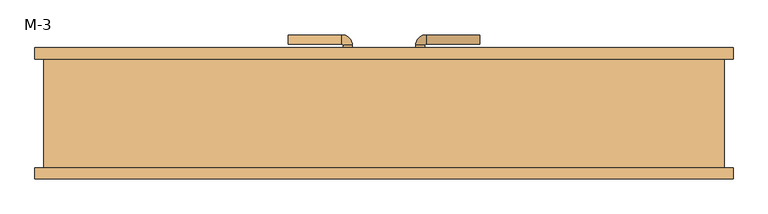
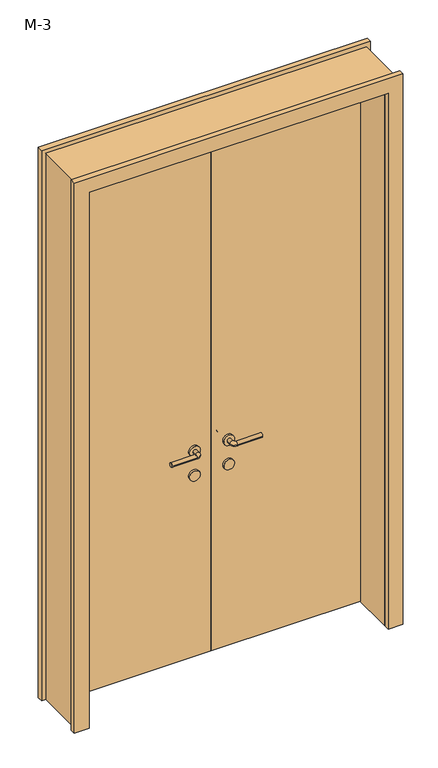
"""IFC4 building model written with IfcOpenShell, lengths in millimetres: door geometry, 双面嵌板木门 1 : M-3."""

import ifcopenshell
import ifcopenshell.guid

model = None  # the IFC model being written
_history = None  # IfcOwnerHistory: only IFC2X3 demands one
_inside = {}  # id of a spatial element -> (the spatial element, [elements in it])
_under = {}  # id of a project, library or spatial element -> (it, [spatial elements below it])
_declared = {}  # id of a project -> (the project, [libraries it declares])
_typed = {}  # id of a type object -> (the type object, [elements of that type])
_made_of = {}  # id of a material, layer set ... -> (it, [elements and type objects made of it])


def new_model(schema):
    """Start an empty IFC model of exactly this schema.

    Asked for "IFC4X3", IfcOpenShell would pick the latest addendum, in which some entities
    have other attributes; the version numbers below select the first issue.
    IFC2X3 requires an IfcOwnerHistory on every rooted entity: one is made here for all.
    """
    global model, _history
    if schema == "IFC4X3":
        model = ifcopenshell.file(schema_version=(4, 3, 0, 0))
    else:
        model = ifcopenshell.file(schema=schema)
    _inside.clear()
    _under.clear()
    _declared.clear()
    _typed.clear()
    _made_of.clear()
    _history = None
    if model.schema == "IFC2X3":
        org = make("IfcOrganization", Name="unknown")
        user = make(
            "IfcPersonAndOrganization",
            ThePerson=make("IfcPerson", FamilyName="unknown"),
            TheOrganization=org,
        )
        app = make(
            "IfcApplication",
            ApplicationDeveloper=org,
            Version="unknown",
            ApplicationFullName="unknown",
            ApplicationIdentifier="unknown",
        )
        _history = make(
            "IfcOwnerHistory",
            OwningUser=user,
            OwningApplication=app,
            ChangeAction="ADDED",
            CreationDate=0,
        )
    return model


def make(cls, **values):
    """One entity of the class cls with the attributes given. An attribute that is None is left unset."""
    return model.create_entity(
        cls, **{name: value for name, value in values.items() if value is not None}
    )


def rooted(cls, **values):
    """An entity with a GlobalId (a new one), such as an element, a storey or a relation."""
    return make(cls, GlobalId=ifcopenshell.guid.new(), OwnerHistory=_history, **values)


def si_unit(unit_type, name, prefix=None):
    """IfcSIUnit, for example si_unit("LENGTHUNIT", "METRE", prefix="MILLI")."""
    return make("IfcSIUnit", UnitType=unit_type, Prefix=prefix, Name=name)


def assignment(units):
    """IfcUnitAssignment: the units of a project."""
    return None if units is None else make("IfcUnitAssignment", Units=units)


def point(xyz):
    """IfcCartesianPoint."""
    return None if xyz is None else make("IfcCartesianPoint", Coordinates=xyz)


def direction(xyz):
    """IfcDirection."""
    return None if xyz is None else make("IfcDirection", DirectionRatios=xyz)


def frame(location, z_axis=None, x_axis=None):
    """IfcAxis2Placement3D, a coordinate frame: its origin and axes. An axis left out is left unset."""
    return make(
        "IfcAxis2Placement3D",
        Location=point(location),
        Axis=direction(z_axis),
        RefDirection=direction(x_axis),
    )


def frame_2d(location, x_axis=None):
    """IfcAxis2Placement2D, a coordinate frame in the plane: its origin and x axis."""
    return make(
        "IfcAxis2Placement2D", Location=point(location), RefDirection=direction(x_axis)
    )


def origin():
    """The frame at (0, 0, 0) with its axes left unset."""
    return frame((0.0, 0.0, 0.0))


def origin_with_axes():
    """The frame at (0, 0, 0) with the z axis (0, 0, 1) and the x axis (1, 0, 0) written out."""
    return frame((0.0, 0.0, 0.0), z_axis=(0.0, 0.0, 1.0), x_axis=(1.0, 0.0, 0.0))


def place(relative_to, where):
    """IfcLocalPlacement: puts the frame where relative to a parent placement (None: the world)."""
    return make(
        "IfcLocalPlacement", PlacementRelTo=relative_to, RelativePlacement=where
    )


def context(
    kind, dimensions, precision=None, world=None, true_north=None, identifier=None
):
    """IfcGeometricRepresentationContext, for example the 3D "Model" context."""
    return make(
        "IfcGeometricRepresentationContext",
        ContextIdentifier=identifier,
        ContextType=kind,
        CoordinateSpaceDimension=dimensions,
        Precision=precision,
        WorldCoordinateSystem=world,
        TrueNorth=true_north,
    )


def project(units=None, contexts=None):
    """IfcProject with its units and contexts."""
    return rooted(
        "IfcProject",
        Name="project",
        RepresentationContexts=contexts,
        UnitsInContext=assignment(units),
    )


def spatial(cls, under=None, at=None, **own):
    """A site, building, storey or space (cls), placed at a placement, below another one or the project."""
    s = rooted(cls, ObjectPlacement=at, **own)
    if under is not None:
        _under.setdefault(under.id(), (under, []))[1].append(s)
    return s


def polyline(points):
    """IfcPolyline through the points."""
    return make("IfcPolyline", Points=[point(p) for p in points])


def circle_curve(where, radius):
    """IfcCircle in the frame where."""
    return make("IfcCircle", Position=where, Radius=radius)


def ellipse_curve(where, semi_axis1, semi_axis2):
    """IfcEllipse in the frame where."""
    return make(
        "IfcEllipse", Position=where, SemiAxis1=semi_axis1, SemiAxis2=semi_axis2
    )


def trimmed(basis, trim1, trim2, sense, master):
    """IfcTrimmedCurve: the piece of a basis curve between two trims."""
    return make(
        "IfcTrimmedCurve",
        BasisCurve=basis,
        Trim1=trim1,
        Trim2=trim2,
        SenseAgreement=sense,
        MasterRepresentation=master,
    )


def segment(curve, same_sense, transition):
    """IfcCompositeCurveSegment."""
    return make(
        "IfcCompositeCurveSegment",
        Transition=transition,
        SameSense=same_sense,
        ParentCurve=curve,
    )


def composite_curve(segments, self_intersect=None):
    """IfcCompositeCurve: segments joined end to end."""
    return make("IfcCompositeCurve", Segments=segments, SelfIntersect=self_intersect)


def outline(outer, holes=None, kind="AREA"):
    """IfcArbitraryClosedProfileDef: a profile drawn as a closed curve; with holes, ...WithVoids."""
    if holes is None:
        return make("IfcArbitraryClosedProfileDef", ProfileType=kind, OuterCurve=outer)
    return make(
        "IfcArbitraryProfileDefWithVoids",
        ProfileType=kind,
        OuterCurve=outer,
        InnerCurves=holes,
    )


def extrude(swept, where, along, depth):
    """IfcExtrudedAreaSolid: the profile swept, set in the frame where, extruded along a direction by depth."""
    return make(
        "IfcExtrudedAreaSolid",
        SweptArea=swept,
        Position=where,
        ExtrudedDirection=direction(along),
        Depth=depth,
    )


def shape(context_of_items, identifier, shape_type, items):
    """IfcShapeRepresentation: the items that make up one representation, for example the "Body"."""
    return make(
        "IfcShapeRepresentation",
        ContextOfItems=context_of_items,
        RepresentationIdentifier=identifier,
        RepresentationType=shape_type,
        Items=items,
    )


def source(mapping_origin, context_of_items, identifier, shape_type, items):
    """IfcRepresentationMap: a shape defined once, which mapped items show again and again."""
    return make(
        "IfcRepresentationMap",
        MappingOrigin=mapping_origin,
        MappedRepresentation=shape(context_of_items, identifier, shape_type, items),
    )


def transform(
    local_origin,
    x_axis=None,
    y_axis=None,
    z_axis=None,
    scale=None,
    scale2=None,
    scale3=None,
    uniform=True,
):
    """IfcCartesianTransformationOperator3D, or its non-uniform kind. x_axis, y_axis, z_axis: its Axis1, 2, 3."""
    if uniform:
        return make(
            "IfcCartesianTransformationOperator3D",
            Axis1=direction(x_axis),
            Axis2=direction(y_axis),
            LocalOrigin=point(local_origin),
            Scale=scale,
            Axis3=direction(z_axis),
        )
    return make(
        "IfcCartesianTransformationOperator3DnonUniform",
        Axis1=direction(x_axis),
        Axis2=direction(y_axis),
        LocalOrigin=point(local_origin),
        Scale=scale,
        Axis3=direction(z_axis),
        Scale2=scale2,
        Scale3=scale3,
    )


def mapped(mapping_source, mapping_target):
    """IfcMappedItem: shows the shape of a source again, moved by a transform."""
    return make(
        "IfcMappedItem", MappingSource=mapping_source, MappingTarget=mapping_target
    )


def made_of(thing, what):
    """Note that an element or type object is made of a material, layer set ...; save() writes the relation."""
    if what is not None:
        _made_of.setdefault(what.id(), (what, []))[1].append(thing)
    return thing


def element(
    cls,
    number,
    at=None,
    inside=None,
    cuts=None,
    type_object=None,
    material=None,
    context=None,
    identifier="Body",
    shape_type=None,
    held_by="IfcProductDefinitionShape",
    body=None,
    shapes=None,
    **own,
):
    """One element of the class cls, such as IfcWall. Its Tag is "e" and its number.

    at: its placement. inside: the storey or other place that contains it. cuts: it is an
    opening in that element (IfcRelVoidsElement). A single representation is given by context,
    identifier, shape_type and body (its items); several are given by shapes. held_by: the class
    of the entity that holds the representations. save() writes the other relations.
    """
    e = rooted(cls, Tag="e%d" % number, ObjectPlacement=at, **own)
    if body is not None:
        shapes = [shape(context, identifier, shape_type, body)]
    if shapes is not None:
        e.Representation = make(held_by, Representations=shapes)
    if inside is not None:
        _inside.setdefault(inside.id(), (inside, []))[1].append(e)
    if cuts is not None:
        rooted(
            "IfcRelVoidsElement", RelatingBuildingElement=cuts, RelatedOpeningElement=e
        )
    if type_object is not None:
        _typed.setdefault(type_object.id(), (type_object, []))[1].append(e)
    return made_of(e, material)


def aggregate(whole, parts):
    """IfcRelAggregates: a whole, such as a stair, and the parts it consists of."""
    return rooted("IfcRelAggregates", RelatingObject=whole, RelatedObjects=parts)


def save(model, path):
    """Write the relations noted so far, then the file.

    IfcRelAggregates (storeys below a building ...), IfcRelContainedInSpatialStructure (elements
    in a storey), IfcRelDefinesByType, IfcRelAssociatesMaterial and IfcRelDeclares: one each for
    every whole, place, type object, material and project.
    """
    for whole, parts in _under.values():
        aggregate(whole, parts)
    for where, things in _inside.values():
        rooted(
            "IfcRelContainedInSpatialStructure",
            RelatedElements=things,
            RelatingStructure=where,
        )
    for kind, things in _typed.values():
        rooted("IfcRelDefinesByType", RelatedObjects=things, RelatingType=kind)
    for what, things in _made_of.values():
        rooted("IfcRelAssociatesMaterial", RelatedObjects=things, RelatingMaterial=what)
    for by, libraries in _declared.values():
        rooted("IfcRelDeclares", RelatingContext=by, RelatedDefinitions=libraries)
    model.write(path)


def plane_surface(at):
    """IfcPlane: the flat surface through the origin of the frame at, square to its z axis."""
    return make("IfcPlane", Position=at)


def cylinder_surface(at, radius):
    """IfcCylindricalSurface: all points at the distance radius from the z axis of the frame at."""
    return make("IfcCylindricalSurface", Position=at, Radius=radius)


def revolved_surface(curve, axis_point, axis_direction):
    """IfcSurfaceOfRevolution: the curve turned about the line through axis_point along axis_direction."""
    return make(
        "IfcSurfaceOfRevolution",
        SweptCurve=make("IfcArbitraryOpenProfileDef", ProfileType="CURVE", Curve=curve),
        AxisPosition=make("IfcAxis1Placement", Location=point(axis_point), Axis=direction(axis_direction)),
    )


def advanced_brep(points, edges, surfaces, faces):
    """IfcAdvancedBrep: a solid bounded by faces that lie on surfaces and meet in shared edges.

    An edge is (start, end): straight between two places in points (the first is 0);
    or (start, end, curve); or (start, end, curve, False) where it runs against its curve.
    A face is (place in surfaces, loops), or (place, loops, False) where it looks against
    its surface's normal. A loop lists edges by number (the first is 1), with a minus sign
    where the edge is run from its end to its start. The first loop is the outer one.
    """
    corners = [point(p) for p in points]
    vertices = [make("IfcVertexPoint", VertexGeometry=c) for c in corners]
    made = []
    for start, end, *more in edges:
        made.append(
            make(
                "IfcEdgeCurve",
                EdgeStart=vertices[start],
                EdgeEnd=vertices[end],
                EdgeGeometry=more[0] if more else make("IfcPolyline", Points=[corners[start], corners[end]]),
                SameSense=more[1] if len(more) > 1 else True,
            )
        )
    hull = []
    for where, loops, *sense in faces:
        bounds = []
        for j, loop in enumerate(loops):
            ring = [make("IfcOrientedEdge", EdgeElement=made[abs(k) - 1], Orientation=k > 0) for k in loop]
            bounds.append(
                make(
                    "IfcFaceOuterBound" if j == 0 else "IfcFaceBound",
                    Bound=make("IfcEdgeLoop", EdgeList=ring),
                    Orientation=True,
                )
            )
        hull.append(make("IfcAdvancedFace", Bounds=bounds, FaceSurface=surfaces[where], SameSense=sense[0] if sense else True))
    return make("IfcAdvancedBrep", Outer=make("IfcClosedShell", CfsFaces=hull))


def m_3_cd12d806(model_context):
    return source(origin(), model_context, "Body", "SolidModel", [
        extrude(outline(composite_curve([segment(trimmed(circle_curve(frame_2d((900.0, 80.0)), 25.0), [point((900.0, 105.0))], [point((900.0, 55.0))], False, "CARTESIAN"), True, "CONTINUOUS"), segment(trimmed(circle_curve(frame_2d((900.0, 80.0)), 25.0), [point((900.0, 55.0))], [point((900.0, 105.0))], False, "CARTESIAN"), True, "CONTINUOUS")], self_intersect=False)), frame((0.0, 120.0, 0.0), z_axis=(0.0, 1.0, 0.0), x_axis=(0.0, 0.0, 1.0)), (0.0, 0.0, 1.0), 10.0),
        extrude(outline(composite_curve([segment(trimmed(circle_curve(frame_2d((900.0, 80.0)), 25.0), [point((900.0, 105.0))], [point((900.0, 55.0))], False, "CARTESIAN"), True, "CONTINUOUS"), segment(trimmed(circle_curve(frame_2d((900.0, 80.0)), 25.0), [point((900.0, 55.0))], [point((900.0, 105.0))], False, "CARTESIAN"), True, "CONTINUOUS")], self_intersect=False)), frame((0.0, 70.0, 0.0), z_axis=(0.0, 1.0, 0.0), x_axis=(0.0, 0.0, 1.0)), (0.0, 0.0, 1.0), 10.0),
        advanced_brep(
        [(70.0, 130.0, 1020.0), (90.0, 130.0, 1020.0), (70.0, 150.6133551, 1020.0), (90.0, 150.6133551, 1020.0), (211.580964, 173.580964, 1020.0), (211.580964, 153.580964, 1020.0), (92.9676089, 153.580964, 1020.0), (92.9676089, 173.580964, 1020.0)],
        [
            (0, 1, circle_curve(frame((80.0, 130.0, 1020.0), z_axis=(0.0, -1.0, 0.0), x_axis=(1.0, 0.0, 0.0)), 10.0)),
            (1, 0, circle_curve(frame((80.0, 130.0, 1020.0), z_axis=(0.0, -1.0, 0.0), x_axis=(1.0, 0.0, 0.0)), 10.0)),
            (0, 2),
            (2, 3, circle_curve(frame((80.0, 150.6133551, 1020.0), z_axis=(0.0, -1.0, 0.0), x_axis=(1.0, 0.0, 0.0)), 10.0)),
            (3, 1),
            (3, 2, circle_curve(frame((80.0, 150.6133551, 1020.0), z_axis=(0.0, -1.0, 0.0), x_axis=(1.0, 0.0, 0.0)), 10.0)),
            (4, 5, circle_curve(frame((211.580964, 163.580964, 1020.0), z_axis=(1.0, 0.0, 0.0), x_axis=(0.0, -1.0, 0.0)), 10.0)),
            (5, 4, circle_curve(frame((211.580964, 163.580964, 1020.0), z_axis=(1.0, 0.0, 0.0), x_axis=(0.0, -1.0, 0.0)), 10.0)),
            (6, 7, circle_curve(frame((92.9676089, 163.580964, 1020.0), z_axis=(-1.0, 0.0, 0.0), x_axis=(0.0, -1.0, 0.0)), 10.0)),
            (7, 2, circle_curve(frame((92.9676089, 150.6133551, 1020.0), z_axis=(0.0, 0.0, 1.0), x_axis=(-1.0, 0.0, 0.0)), 22.9676089)),
            (3, 6, circle_curve(frame((92.9676089, 150.6133551, 1020.0), z_axis=(0.0, 0.0, -1.0), x_axis=(-1.0, 0.0, 0.0)), 2.9676089)),
            (7, 6, circle_curve(frame((92.9676089, 163.580964, 1020.0), z_axis=(-1.0, 0.0, 0.0), x_axis=(0.0, -1.0, 0.0)), 10.0)),
            (6, 5),
            (4, 7),
        ],
        [
            plane_surface(frame((80.0, 130.0, 900.0), z_axis=(0.0, -1.0, 0.0), x_axis=(0.0, 0.0, 1.0))),
            cylinder_surface(frame((80.0, 130.0, 1020.0), z_axis=(0.0, -1.0, 0.0), x_axis=(1.0, 0.0, 0.0)), 10.0),
            plane_surface(frame((211.580964, 163.580964, 900.0), z_axis=(1.0, 0.0, 0.0), x_axis=(0.0, 0.0, 1.0))),
            revolved_surface(trimmed(ellipse_curve(frame((80.0, 150.6133551, 1020.0), z_axis=(0.0, 1.0, 0.0), x_axis=(1.0, 0.0, 0.0)), 10.0, 10.0), [point((70.0, 150.6133551, 1020.0))], [point((90.0, 150.6133551, 1020.0))], True, "CARTESIAN"), (92.9676089, 150.6133551, 900.0), (0.0, 0.0, 1.0)),
            revolved_surface(trimmed(ellipse_curve(frame((80.0, 150.6133551, 1020.0), z_axis=(0.0, 1.0, 0.0), x_axis=(1.0, 0.0, 0.0)), 10.0, 10.0), [point((90.0, 150.6133551, 1020.0))], [point((70.0, 150.6133551, 1020.0))], True, "CARTESIAN"), (92.9676089, 150.6133551, 900.0), (0.0, 0.0, 1.0)),
            cylinder_surface(frame((92.9676089, 163.580964, 1020.0), z_axis=(-1.0, 0.0, 0.0), x_axis=(0.0, -1.0, 0.0)), 10.0),
        ],
        [
            (0, [[1, 2]]),
            (1, [[3, 4, 5, -1]]),
            (1, [[-5, 6, -3, -2]]),
            (2, [[7, 8]]),
            (3, [[9, 10, -6, 11]]),
            (4, [[12, -11, -4, -10]]),
            (5, [[13, -7, 14, -9]]),
            (5, [[-14, -8, -13, -12]]),
        ],
    ),
        extrude(outline(composite_curve([segment(trimmed(circle_curve(frame_2d((1020.0, 80.0)), 25.0), [point((1020.0, 105.0))], [point((1020.0, 55.0))], False, "CARTESIAN"), True, "CONTINUOUS"), segment(trimmed(circle_curve(frame_2d((1020.0, 80.0)), 25.0), [point((1020.0, 55.0))], [point((1020.0, 105.0))], False, "CARTESIAN"), True, "CONTINUOUS")], self_intersect=False)), frame((0.0, 120.0, 0.0), z_axis=(0.0, 1.0, 0.0), x_axis=(0.0, 0.0, 1.0)), (0.0, 0.0, 1.0), 10.0),
        advanced_brep(
        [(90.0, 70.0, 1020.0), (70.0, 70.0, 1020.0), (70.0, 49.386645, 1020.0), (90.0, 49.386645, 1020.0), (211.580964, 46.419036, 1020.0), (211.580964, 26.419036, 1020.0), (92.9676089, 26.419036, 1020.0), (92.9676089, 46.419036, 1020.0)],
        [
            (0, 1, circle_curve(frame((80.0, 70.0, 1020.0), z_axis=(0.0, 1.0, 0.0), x_axis=(-1.0, 0.0, 0.0)), 10.0)),
            (1, 0, circle_curve(frame((80.0, 70.0, 1020.0), z_axis=(0.0, 1.0, 0.0), x_axis=(-1.0, 0.0, 0.0)), 10.0)),
            (1, 2),
            (2, 3, circle_curve(frame((80.0, 49.386645, 1020.0), z_axis=(0.0, 1.0, 0.0), x_axis=(-1.0, 0.0, 0.0)), 10.0)),
            (3, 0),
            (3, 2, circle_curve(frame((80.0, 49.386645, 1020.0), z_axis=(0.0, 1.0, 0.0), x_axis=(-1.0, 0.0, 0.0)), 10.0)),
            (4, 5, circle_curve(frame((211.580964, 36.419036, 1020.0), z_axis=(1.0, 0.0, 0.0), x_axis=(0.0, -1.0, 0.0)), 10.0)),
            (5, 4, circle_curve(frame((211.580964, 36.419036, 1020.0), z_axis=(1.0, 0.0, 0.0), x_axis=(0.0, -1.0, 0.0)), 10.0)),
            (6, 7, circle_curve(frame((92.9676089, 36.419036, 1020.0), z_axis=(-1.0, 0.0, 0.0), x_axis=(0.0, -1.0, 0.0)), 10.0)),
            (7, 3, circle_curve(frame((92.9676089, 49.386645, 1020.0), z_axis=(0.0, 0.0, -1.0), x_axis=(-1.0, 0.0, 0.0)), 2.9676089)),
            (2, 6, circle_curve(frame((92.9676089, 49.386645, 1020.0), z_axis=(0.0, 0.0, 1.0), x_axis=(-1.0, 0.0, 0.0)), 22.9676089)),
            (7, 6, circle_curve(frame((92.9676089, 36.419036, 1020.0), z_axis=(-1.0, 0.0, 0.0), x_axis=(0.0, -1.0, 0.0)), 10.0)),
            (6, 5),
            (4, 7),
        ],
        [
            plane_surface(frame((80.0, 70.0, 900.0), z_axis=(0.0, 1.0, 0.0), x_axis=(0.0, 0.0, 1.0))),
            cylinder_surface(frame((80.0, 70.0, 1020.0), z_axis=(0.0, 1.0, 0.0), x_axis=(-1.0, 0.0, 0.0)), 10.0),
            plane_surface(frame((211.580964, 36.419036, 900.0), z_axis=(1.0, 0.0, 0.0), x_axis=(0.0, 0.0, 1.0))),
            revolved_surface(trimmed(ellipse_curve(frame((80.0, 49.386645, 1020.0), z_axis=(0.0, -1.0, 0.0), x_axis=(-1.0, 0.0, 0.0)), 10.0, 10.0), [point((90.0, 49.386645, 1020.0))], [point((70.0, 49.386645, 1020.0))], True, "CARTESIAN"), (92.9676089, 49.386645, 900.0), (0.0, 0.0, -1.0)),
            revolved_surface(trimmed(ellipse_curve(frame((80.0, 49.386645, 1020.0), z_axis=(0.0, -1.0, 0.0), x_axis=(-1.0, 0.0, 0.0)), 10.0, 10.0), [point((70.0, 49.386645, 1020.0))], [point((90.0, 49.386645, 1020.0))], True, "CARTESIAN"), (92.9676089, 49.386645, 900.0), (0.0, 0.0, -1.0)),
            cylinder_surface(frame((92.9676089, 36.419036, 1020.0), z_axis=(-1.0, 0.0, 0.0), x_axis=(0.0, -1.0, 0.0)), 10.0),
        ],
        [
            (0, [[1, 2]]),
            (1, [[3, 4, 5, -2]]),
            (1, [[-5, 6, -3, -1]]),
            (2, [[7, 8]]),
            (3, [[9, 10, -4, 11]]),
            (4, [[12, -11, -6, -10]]),
            (5, [[13, -7, 14, -9]]),
            (5, [[-14, -8, -13, -12]]),
        ],
    ),
        extrude(outline(composite_curve([segment(trimmed(circle_curve(frame_2d((1020.0, 80.0)), 25.0), [point((1020.0, 105.0))], [point((1020.0, 55.0))], False, "CARTESIAN"), True, "CONTINUOUS"), segment(trimmed(circle_curve(frame_2d((1020.0, 80.0)), 25.0), [point((1020.0, 55.0))], [point((1020.0, 105.0))], False, "CARTESIAN"), True, "CONTINUOUS")], self_intersect=False)), frame((0.0, 70.0, 0.0), z_axis=(0.0, 1.0, 0.0), x_axis=(0.0, 0.0, 1.0)), (0.0, 0.0, 1.0), 10.0),
        extrude(outline(composite_curve([segment(trimmed(circle_curve(frame_2d((900.0, -80.0)), 25.0), [point((900.0, -105.0))], [point((900.0, -55.0))], False, "CARTESIAN"), True, "CONTINUOUS"), segment(trimmed(circle_curve(frame_2d((900.0, -80.0)), 25.0), [point((900.0, -55.0))], [point((900.0, -105.0))], False, "CARTESIAN"), True, "CONTINUOUS")], self_intersect=False)), frame((0.0, 120.0, 0.0), z_axis=(0.0, 1.0, 0.0), x_axis=(0.0, 0.0, 1.0)), (0.0, 0.0, 1.0), 10.0),
        extrude(outline(composite_curve([segment(trimmed(circle_curve(frame_2d((900.0, -80.0)), 25.0), [point((900.0, -105.0))], [point((900.0, -55.0))], False, "CARTESIAN"), True, "CONTINUOUS"), segment(trimmed(circle_curve(frame_2d((900.0, -80.0)), 25.0), [point((900.0, -55.0))], [point((900.0, -105.0))], False, "CARTESIAN"), True, "CONTINUOUS")], self_intersect=False)), frame((0.0, 70.0, 0.0), z_axis=(0.0, 1.0, 0.0), x_axis=(0.0, 0.0, 1.0)), (0.0, 0.0, 1.0), 10.0),
        advanced_brep(
        [(-70.0, 130.0, 1020.0), (-90.0, 130.0, 1020.0), (-90.0, 150.6133551, 1020.0), (-70.0, 150.6133551, 1020.0), (-211.580964, 173.580964, 1020.0), (-211.580964, 153.580964, 1020.0), (-92.9676089, 153.580964, 1020.0), (-92.9676089, 173.580964, 1020.0)],
        [
            (0, 1, circle_curve(frame((-80.0, 130.0, 1020.0), z_axis=(0.0, -1.0, 0.0), x_axis=(-1.0, 0.0, 0.0)), 10.0)),
            (1, 0, circle_curve(frame((-80.0, 130.0, 1020.0), z_axis=(0.0, -1.0, 0.0), x_axis=(-1.0, 0.0, 0.0)), 10.0)),
            (1, 2),
            (2, 3, circle_curve(frame((-80.0, 150.6133551, 1020.0), z_axis=(0.0, -1.0, 0.0), x_axis=(-1.0, 0.0, 0.0)), 10.0)),
            (3, 0),
            (3, 2, circle_curve(frame((-80.0, 150.6133551, 1020.0), z_axis=(0.0, -1.0, 0.0), x_axis=(-1.0, 0.0, 0.0)), 10.0)),
            (4, 5, circle_curve(frame((-211.580964, 163.580964, 1020.0), z_axis=(-1.0, 0.0, 0.0), x_axis=(0.0, -1.0, 0.0)), 10.0)),
            (5, 4, circle_curve(frame((-211.580964, 163.580964, 1020.0), z_axis=(-1.0, 0.0, 0.0), x_axis=(0.0, -1.0, 0.0)), 10.0)),
            (6, 2, circle_curve(frame((-92.9676089, 150.6133551, 1020.0), z_axis=(0.0, 0.0, -1.0), x_axis=(1.0, 0.0, 0.0)), 2.9676089)),
            (3, 7, circle_curve(frame((-92.9676089, 150.6133551, 1020.0), z_axis=(0.0, 0.0, 1.0), x_axis=(1.0, 0.0, 0.0)), 22.9676089)),
            (7, 6, circle_curve(frame((-92.9676089, 163.580964, 1020.0), z_axis=(1.0, 0.0, 0.0), x_axis=(0.0, -1.0, 0.0)), 10.0)),
            (6, 7, circle_curve(frame((-92.9676089, 163.580964, 1020.0), z_axis=(1.0, 0.0, 0.0), x_axis=(0.0, -1.0, 0.0)), 10.0)),
            (7, 4),
            (5, 6),
        ],
        [
            plane_surface(frame((-80.0, 130.0, 900.0), z_axis=(0.0, -1.0, 0.0), x_axis=(0.0, 0.0, 1.0))),
            cylinder_surface(frame((-80.0, 130.0, 1020.0), z_axis=(0.0, -1.0, 0.0), x_axis=(-1.0, 0.0, 0.0)), 10.0),
            plane_surface(frame((-211.580964, 163.580964, 900.0), z_axis=(-1.0, 0.0, 0.0), x_axis=(0.0, 0.0, 1.0))),
            revolved_surface(trimmed(ellipse_curve(frame((-80.0, 150.6133551, 1020.0), z_axis=(0.0, -1.0, 0.0), x_axis=(-1.0, 0.0, 0.0)), 10.0, 10.0), [point((-70.0, 150.6133551, 1020.0))], [point((-90.0, 150.6133551, 1020.0))], True, "CARTESIAN"), (-92.9676089, 150.6133551, 900.0), (0.0, 0.0, 1.0)),
            revolved_surface(trimmed(ellipse_curve(frame((-80.0, 150.6133551, 1020.0), z_axis=(0.0, -1.0, 0.0), x_axis=(-1.0, 0.0, 0.0)), 10.0, 10.0), [point((-90.0, 150.6133551, 1020.0))], [point((-70.0, 150.6133551, 1020.0))], True, "CARTESIAN"), (-92.9676089, 150.6133551, 900.0), (0.0, 0.0, 1.0)),
            cylinder_surface(frame((-92.9676089, 163.580964, 1020.0), z_axis=(1.0, 0.0, 0.0), x_axis=(0.0, -1.0, 0.0)), 10.0),
        ],
        [
            (0, [[1, 2]]),
            (1, [[-2, 3, 4, 5]]),
            (1, [[-1, -5, 6, -3]]),
            (2, [[7, 8]]),
            (3, [[9, -6, 10, 11]]),
            (4, [[-10, -4, -9, 12]]),
            (5, [[-11, 13, -8, 14]]),
            (5, [[-12, -14, -7, -13]]),
        ],
    ),
        extrude(outline(composite_curve([segment(trimmed(circle_curve(frame_2d((1020.0, -80.0)), 25.0), [point((1020.0, -105.0))], [point((1020.0, -55.0))], False, "CARTESIAN"), True, "CONTINUOUS"), segment(trimmed(circle_curve(frame_2d((1020.0, -80.0)), 25.0), [point((1020.0, -55.0))], [point((1020.0, -105.0))], False, "CARTESIAN"), True, "CONTINUOUS")], self_intersect=False)), frame((0.0, 120.0, 0.0), z_axis=(0.0, 1.0, 0.0), x_axis=(0.0, 0.0, 1.0)), (0.0, 0.0, 1.0), 10.0),
        advanced_brep(
        [(-90.0, 70.0, 1020.0), (-70.0, 70.0, 1020.0), (-90.0, 49.386645, 1020.0), (-70.0, 49.386645, 1020.0), (-211.580964, 46.419036, 1020.0), (-211.580964, 26.419036, 1020.0), (-92.9676089, 26.419036, 1020.0), (-92.9676089, 46.419036, 1020.0)],
        [
            (0, 1, circle_curve(frame((-80.0, 70.0, 1020.0), z_axis=(0.0, 1.0, 0.0), x_axis=(1.0, 0.0, 0.0)), 10.0)),
            (1, 0, circle_curve(frame((-80.0, 70.0, 1020.0), z_axis=(0.0, 1.0, 0.0), x_axis=(1.0, 0.0, 0.0)), 10.0)),
            (0, 2),
            (2, 3, circle_curve(frame((-80.0, 49.386645, 1020.0), z_axis=(0.0, 1.0, 0.0), x_axis=(1.0, 0.0, 0.0)), 10.0)),
            (3, 1),
            (3, 2, circle_curve(frame((-80.0, 49.386645, 1020.0), z_axis=(0.0, 1.0, 0.0), x_axis=(1.0, 0.0, 0.0)), 10.0)),
            (4, 5, circle_curve(frame((-211.580964, 36.419036, 1020.0), z_axis=(-1.0, 0.0, 0.0), x_axis=(0.0, -1.0, 0.0)), 10.0)),
            (5, 4, circle_curve(frame((-211.580964, 36.419036, 1020.0), z_axis=(-1.0, 0.0, 0.0), x_axis=(0.0, -1.0, 0.0)), 10.0)),
            (6, 3, circle_curve(frame((-92.9676089, 49.386645, 1020.0), z_axis=(0.0, 0.0, 1.0), x_axis=(1.0, 0.0, 0.0)), 22.9676089)),
            (2, 7, circle_curve(frame((-92.9676089, 49.386645, 1020.0), z_axis=(0.0, 0.0, -1.0), x_axis=(1.0, 0.0, 0.0)), 2.9676089)),
            (7, 6, circle_curve(frame((-92.9676089, 36.419036, 1020.0), z_axis=(1.0, 0.0, 0.0), x_axis=(0.0, -1.0, 0.0)), 10.0)),
            (6, 7, circle_curve(frame((-92.9676089, 36.419036, 1020.0), z_axis=(1.0, 0.0, 0.0), x_axis=(0.0, -1.0, 0.0)), 10.0)),
            (7, 4),
            (5, 6),
        ],
        [
            plane_surface(frame((-80.0, 70.0, 900.0), z_axis=(0.0, 1.0, 0.0), x_axis=(0.0, 0.0, 1.0))),
            cylinder_surface(frame((-80.0, 70.0, 1020.0), z_axis=(0.0, 1.0, 0.0), x_axis=(1.0, 0.0, 0.0)), 10.0),
            plane_surface(frame((-211.580964, 36.419036, 900.0), z_axis=(-1.0, 0.0, 0.0), x_axis=(0.0, 0.0, 1.0))),
            revolved_surface(trimmed(ellipse_curve(frame((-80.0, 49.386645, 1020.0), z_axis=(0.0, 1.0, 0.0), x_axis=(1.0, 0.0, 0.0)), 10.0, 10.0), [point((-90.0, 49.386645, 1020.0))], [point((-70.0, 49.386645, 1020.0))], True, "CARTESIAN"), (-92.9676089, 49.386645, 900.0), (0.0, 0.0, -1.0)),
            revolved_surface(trimmed(ellipse_curve(frame((-80.0, 49.386645, 1020.0), z_axis=(0.0, 1.0, 0.0), x_axis=(1.0, 0.0, 0.0)), 10.0, 10.0), [point((-70.0, 49.386645, 1020.0))], [point((-90.0, 49.386645, 1020.0))], True, "CARTESIAN"), (-92.9676089, 49.386645, 900.0), (0.0, 0.0, -1.0)),
            cylinder_surface(frame((-92.9676089, 36.419036, 1020.0), z_axis=(1.0, 0.0, 0.0), x_axis=(0.0, -1.0, 0.0)), 10.0),
        ],
        [
            (0, [[1, 2]]),
            (1, [[-1, 3, 4, 5]]),
            (1, [[-2, -5, 6, -3]]),
            (2, [[7, 8]]),
            (3, [[9, -4, 10, 11]]),
            (4, [[-10, -6, -9, 12]]),
            (5, [[-11, 13, -8, 14]]),
            (5, [[-12, -14, -7, -13]]),
        ],
    ),
        extrude(outline(composite_curve([segment(trimmed(circle_curve(frame_2d((1020.0, -80.0)), 25.0), [point((1020.0, -105.0))], [point((1020.0, -55.0))], False, "CARTESIAN"), True, "CONTINUOUS"), segment(trimmed(circle_curve(frame_2d((1020.0, -80.0)), 25.0), [point((1020.0, -55.0))], [point((1020.0, -105.0))], False, "CARTESIAN"), True, "CONTINUOUS")], self_intersect=False)), frame((0.0, 70.0, 0.0), z_axis=(0.0, 1.0, 0.0), x_axis=(0.0, 0.0, 1.0)), (0.0, 0.0, 1.0), 10.0),
        extrude(outline(polyline([(0.0, 770.0), (2720.0, 770.0), (2720.0, -770.0), (0.0, -770.0), (0.0, -700.0), (2650.0, -700.0), (2650.0, 700.0), (0.0, 700.0), (0.0, 770.0)])), frame((0.0, 120.0, 0.0), z_axis=(0.0, 1.0, 0.0), x_axis=(0.0, 0.0, 1.0)), (0.0, 0.0, 1.0), 25.0),
        extrude(outline(polyline([(2720.0, 770.0), (2720.0, -770.0), (0.0, -770.0), (0.0, -700.0), (2650.0, -700.0), (2650.0, 700.0), (0.0, 700.0), (0.0, 770.0), (2720.0, 770.0)])), frame((0.0, -145.0, 0.0), z_axis=(0.0, 1.0, 0.0), x_axis=(0.0, 0.0, 1.0)), (0.0, 0.0, 1.0), 25.0),
        extrude(outline(polyline([(700.0, 80.0), (0.0, 80.0), (0.0, 120.0), (700.0, 120.0), (700.0, 80.0)])), origin_with_axes(), (0.0, 0.0, 1.0), 2650.0),
        extrude(outline(polyline([(0.0, 80.0), (-700.0, 80.0), (-700.0, 120.0), (0.0, 120.0), (0.0, 80.0)])), origin_with_axes(), (0.0, 0.0, 1.0), 2650.0),
        extrude(outline(polyline([(2700.0, -750.0), (0.0, -750.0), (0.0, -700.0), (2650.0, -700.0), (2650.0, 700.0), (0.0, 700.0), (0.0, 750.0), (2700.0, 750.0), (2700.0, -750.0)])), frame((0.0, -120.0, 0.0), z_axis=(0.0, 1.0, 0.0), x_axis=(0.0, 0.0, 1.0)), (0.0, 0.0, 1.0), 240.0),
    ])


if __name__ == "__main__":
    model = new_model("IFC4")
    model_context = context("Model", 3, world=origin())
    ifc_project = project(units=[si_unit("LENGTHUNIT", "METRE", prefix="MILLI")], contexts=[model_context])
    site = spatial("IfcSite", under=ifc_project)
    building = spatial("IfcBuilding", under=site)
    placement = place(None, origin())
    m_3_shape = m_3_cd12d806(model_context)
    element("IfcDoor", 1, ObjectType="双面嵌板木门 1 : M-3", at=placement, inside=building, context=model_context, shape_type="MappedRepresentation", body=[
        mapped(m_3_shape, transform((0.0, 0.0, 0.0), x_axis=(1.0, 0.0, 0.0), y_axis=(0.0, 1.0, 0.0), z_axis=(0.0, 0.0, 1.0))),
    ])
    save(model, "model.ifc")
